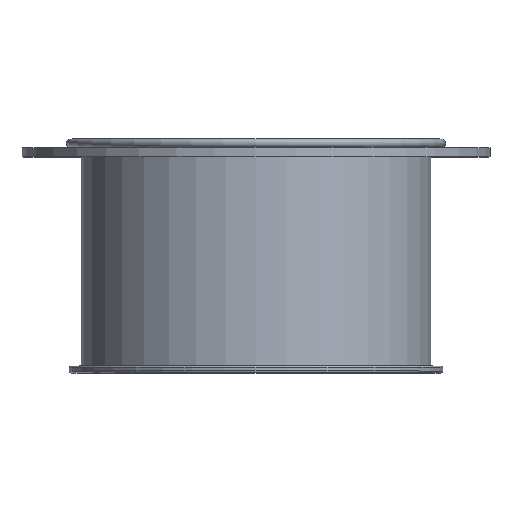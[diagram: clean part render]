
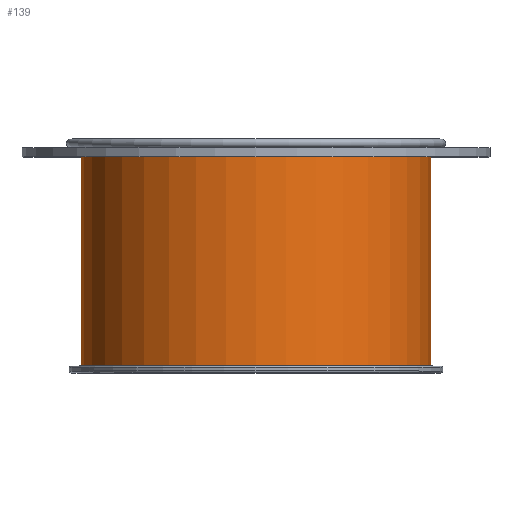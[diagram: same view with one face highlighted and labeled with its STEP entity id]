
A CAD part, top view. The second image highlights one B-rep face of the part: STEP entity #139.
In plain terms, the highlighted cylindrical face has radius 75.8 mm (diameter 151.6 mm), a full revolution.
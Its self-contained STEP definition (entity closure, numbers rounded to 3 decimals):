
#139=ADVANCED_FACE('',(#219,#220),#159,.T.);
#159=CYLINDRICAL_SURFACE('',#542,75.8);
#219=FACE_BOUND('',#291,.T.);
#220=FACE_BOUND('',#292,.T.);
#291=EDGE_LOOP('',(#363));
#292=EDGE_LOOP('',(#364));
#363=ORIENTED_EDGE('',*,*,#445,.T.);
#364=ORIENTED_EDGE('',*,*,#444,.F.);
#408=VERTEX_POINT('',#772);
#409=VERTEX_POINT('',#775);
#444=EDGE_CURVE('',#408,#408,#480,.T.);
#445=EDGE_CURVE('',#409,#409,#481,.T.);
#480=CIRCLE('',#539,75.8);
#481=CIRCLE('',#541,75.8);
#539=AXIS2_PLACEMENT_3D('',#771,#660,#661);
#541=AXIS2_PLACEMENT_3D('',#774,#664,#665);
#542=AXIS2_PLACEMENT_3D('',#776,#666,#667);
#660=DIRECTION('',(0.,1.,0.));
#661=DIRECTION('',(1.,0.,0.));
#664=DIRECTION('',(0.,1.,0.));
#665=DIRECTION('',(1.,0.,0.));
#666=DIRECTION('',(0.,1.,0.));
#667=DIRECTION('',(1.,0.,0.));
#771=CARTESIAN_POINT('',(0.,99.2,0.));
#772=CARTESIAN_POINT('',(75.8,99.2,0.));
#774=CARTESIAN_POINT('',(0.,3.,0.));
#775=CARTESIAN_POINT('',(75.8,3.,0.));
#776=CARTESIAN_POINT('',(0.,-192.076,0.));
